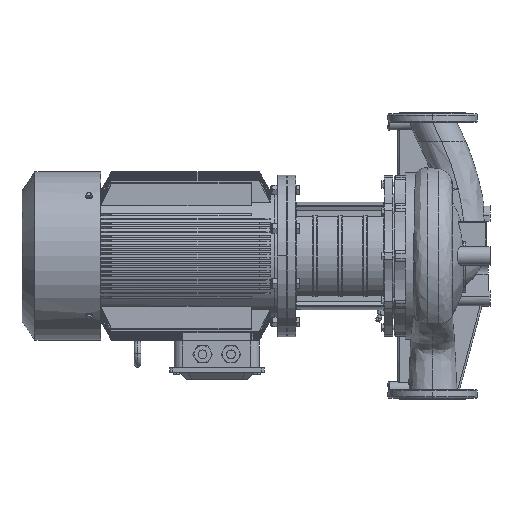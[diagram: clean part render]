
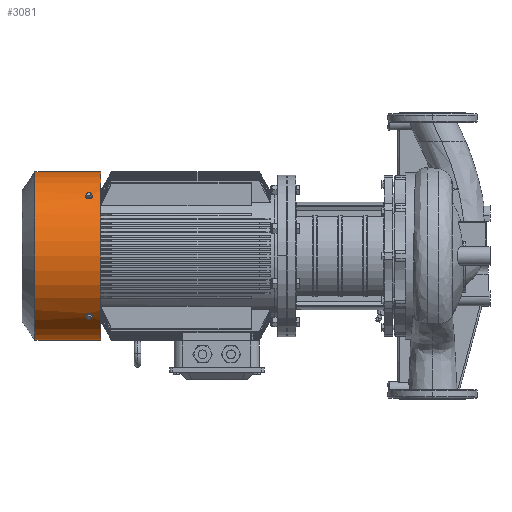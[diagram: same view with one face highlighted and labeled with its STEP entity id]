
A CAD part, left-side view. The second image highlights one B-rep face of the part: STEP entity #3081.
In plain terms, the highlighted cylindrical face has radius 235 mm (diameter 470 mm), a partial arc.
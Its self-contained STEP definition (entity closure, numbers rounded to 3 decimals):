
#384=FACE_BOUND('',#7157,.T.);
#385=FACE_BOUND('',#7158,.T.);
#386=FACE_BOUND('',#7159,.T.);
#3081=ADVANCED_FACE('',(#384,#385,#386),#4031,.T.);
#4031=CYLINDRICAL_SURFACE('',#31645,235.);
#7157=EDGE_LOOP('',(#18201,#18202));
#7158=EDGE_LOOP('',(#18203,#18204));
#7159=EDGE_LOOP('',(#18205,#18206,#18207,#18208));
#8910=CIRCLE('',#31153,235.);
#9138=CIRCLE('',#31644,235.);
#10375=LINE('',#56562,#11919);
#10376=LINE('',#56564,#11920);
#11919=VECTOR('',#37087,1.);
#11920=VECTOR('',#37088,1.);
#18201=ORIENTED_EDGE('',*,*,#26850,.T.);
#18202=ORIENTED_EDGE('',*,*,#25844,.T.);
#18203=ORIENTED_EDGE('',*,*,#26851,.T.);
#18204=ORIENTED_EDGE('',*,*,#25775,.T.);
#18205=ORIENTED_EDGE('',*,*,#26852,.T.);
#18206=ORIENTED_EDGE('',*,*,#26343,.F.);
#18207=ORIENTED_EDGE('',*,*,#26509,.F.);
#18208=ORIENTED_EDGE('',*,*,#26344,.T.);
#22367=VERTEX_POINT('',#54515);
#22368=VERTEX_POINT('',#54517);
#22403=VERTEX_POINT('',#54738);
#22404=VERTEX_POINT('',#54740);
#22897=VERTEX_POINT('',#56557);
#22898=VERTEX_POINT('',#56559);
#22899=VERTEX_POINT('',#56563);
#22900=VERTEX_POINT('',#56565);
#25775=EDGE_CURVE('',#22367,#22368,#28569,.T.);
#25844=EDGE_CURVE('',#22403,#22404,#28596,.T.);
#26343=EDGE_CURVE('',#22899,#22897,#10375,.T.);
#26344=EDGE_CURVE('',#22900,#22898,#10376,.T.);
#26509=EDGE_CURVE('',#22900,#22899,#8910,.T.);
#26850=EDGE_CURVE('',#22404,#22403,#28905,.T.);
#26851=EDGE_CURVE('',#22368,#22367,#28906,.T.);
#26852=EDGE_CURVE('',#22898,#22897,#9138,.T.);
#28569=B_SPLINE_CURVE_WITH_KNOTS('',3,(#54518,#54519,#54520,#54521,#54522,
#54523,#54524,#54525,#54526,#54527),.UNSPECIFIED.,.F.,.F.,(4,2,2,2,4),(0.,
0.25,0.5,0.75,1.),.UNSPECIFIED.);
#28596=B_SPLINE_CURVE_WITH_KNOTS('',3,(#54741,#54742,#54743,#54744,#54745,
#54746,#54747,#54748,#54749,#54750),.UNSPECIFIED.,.F.,.F.,(4,2,2,2,4),(0.,
0.25,0.5,0.75,1.),.UNSPECIFIED.);
#28905=B_SPLINE_CURVE_WITH_KNOTS('',3,(#57744,#57745,#57746,#57747,#57748,
#57749,#57750,#57751,#57752,#57753),.UNSPECIFIED.,.F.,.F.,(4,2,2,2,4),(0.,
0.25,0.5,0.75,1.),.UNSPECIFIED.);
#28906=B_SPLINE_CURVE_WITH_KNOTS('',3,(#57754,#57755,#57756,#57757,#57758,
#57759,#57760,#57761,#57762,#57763),.UNSPECIFIED.,.F.,.F.,(4,2,2,2,4),(0.,
0.25,0.5,0.75,1.),.UNSPECIFIED.);
#31153=AXIS2_PLACEMENT_3D('',#56794,#37415,#37416);
#31644=AXIS2_PLACEMENT_3D('',#57764,#38432,#38433);
#31645=AXIS2_PLACEMENT_3D('',#57765,#38434,#38435);
#37087=DIRECTION('',(0.,1.,0.));
#37088=DIRECTION('',(0.,1.,0.));
#37415=DIRECTION('',(0.,-1.,0.));
#37416=DIRECTION('',(0.,0.,1.));
#38432=DIRECTION('',(0.,-1.,0.));
#38433=DIRECTION('',(0.,0.,1.));
#38434=DIRECTION('',(0.,-1.,0.));
#38435=DIRECTION('',(0.,0.,-1.));
#54515=CARTESIAN_POINT('',(-172.684,864.,159.39));
#54517=CARTESIAN_POINT('',(-159.39,864.,172.684));
#54518=CARTESIAN_POINT('',(-172.684,864.,159.39));
#54519=CARTESIAN_POINT('',(-172.684,866.484,159.39));
#54520=CARTESIAN_POINT('',(-171.995,868.913,160.143));
#54521=CARTESIAN_POINT('',(-169.612,872.381,162.665));
#54522=CARTESIAN_POINT('',(-167.908,873.398,164.432));
#54523=CARTESIAN_POINT('',(-164.441,873.402,167.9));
#54524=CARTESIAN_POINT('',(-162.684,872.405,169.594));
#54525=CARTESIAN_POINT('',(-160.13,868.898,172.007));
#54526=CARTESIAN_POINT('',(-159.39,866.484,172.684));
#54527=CARTESIAN_POINT('',(-159.39,864.,172.684));
#54738=CARTESIAN_POINT('',(-159.39,864.,-172.684));
#54740=CARTESIAN_POINT('',(-172.684,864.,-159.39));
#54741=CARTESIAN_POINT('',(-159.39,864.,-172.684));
#54742=CARTESIAN_POINT('',(-159.39,866.484,-172.684));
#54743=CARTESIAN_POINT('',(-160.143,868.913,-171.995));
#54744=CARTESIAN_POINT('',(-162.665,872.381,-169.612));
#54745=CARTESIAN_POINT('',(-164.432,873.398,-167.908));
#54746=CARTESIAN_POINT('',(-167.9,873.402,-164.441));
#54747=CARTESIAN_POINT('',(-169.594,872.405,-162.684));
#54748=CARTESIAN_POINT('',(-172.007,868.898,-160.13));
#54749=CARTESIAN_POINT('',(-172.684,866.484,-159.39));
#54750=CARTESIAN_POINT('',(-172.684,864.,-159.39));
#56557=CARTESIAN_POINT('',(0.,1014.799,-235.));
#56559=CARTESIAN_POINT('',(0.,1014.799,235.));
#56562=CARTESIAN_POINT('',(0.,171.,-235.));
#56563=CARTESIAN_POINT('',(0.,831.,-235.));
#56564=CARTESIAN_POINT('',(0.,171.,235.));
#56565=CARTESIAN_POINT('',(0.,831.,235.));
#56794=CARTESIAN_POINT('',(0.,831.,0.));
#57744=CARTESIAN_POINT('',(-172.684,864.,-159.39));
#57745=CARTESIAN_POINT('',(-172.684,861.516,-159.39));
#57746=CARTESIAN_POINT('',(-171.995,859.087,-160.143));
#57747=CARTESIAN_POINT('',(-169.612,855.619,-162.665));
#57748=CARTESIAN_POINT('',(-167.908,854.602,-164.432));
#57749=CARTESIAN_POINT('',(-164.441,854.598,-167.9));
#57750=CARTESIAN_POINT('',(-162.684,855.595,-169.594));
#57751=CARTESIAN_POINT('',(-160.13,859.102,-172.007));
#57752=CARTESIAN_POINT('',(-159.39,861.516,-172.684));
#57753=CARTESIAN_POINT('',(-159.39,864.,-172.684));
#57754=CARTESIAN_POINT('',(-159.39,864.,172.684));
#57755=CARTESIAN_POINT('',(-159.39,861.516,172.684));
#57756=CARTESIAN_POINT('',(-160.143,859.087,171.995));
#57757=CARTESIAN_POINT('',(-162.665,855.619,169.612));
#57758=CARTESIAN_POINT('',(-164.432,854.602,167.908));
#57759=CARTESIAN_POINT('',(-167.9,854.598,164.441));
#57760=CARTESIAN_POINT('',(-169.594,855.595,162.684));
#57761=CARTESIAN_POINT('',(-172.007,859.102,160.13));
#57762=CARTESIAN_POINT('',(-172.684,861.516,159.39));
#57763=CARTESIAN_POINT('',(-172.684,864.,159.39));
#57764=CARTESIAN_POINT('',(0.,1014.799,0.));
#57765=CARTESIAN_POINT('',(0.,171.,0.));
